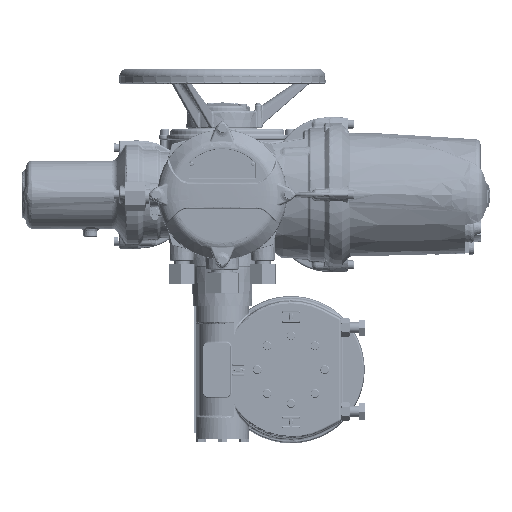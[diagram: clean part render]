
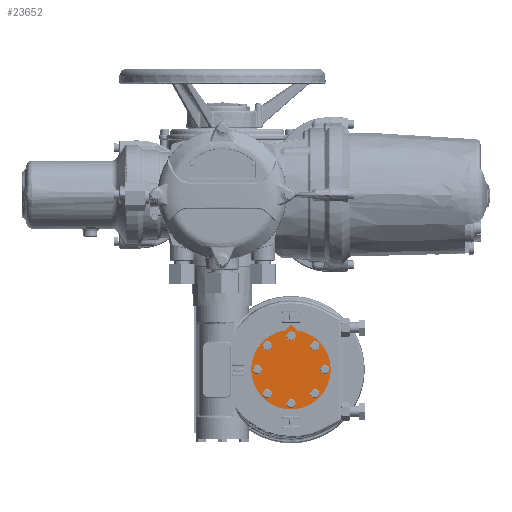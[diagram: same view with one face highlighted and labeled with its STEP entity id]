
A CAD part, front view. The second image highlights one B-rep face of the part: STEP entity #23652.
In plain terms, the highlighted planar face has unit normal (0, -1, 0).
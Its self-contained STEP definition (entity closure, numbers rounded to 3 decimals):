
#23652 = ADVANCED_FACE( '', ( #49258, #49259, #49260, #49261, #49262, #49263, #49264, #49265, #49266 ), #49267, .F. );
#49258 = FACE_BOUND( '', #304279, .T. );
#49259 = FACE_BOUND( '', #304280, .T. );
#49260 = FACE_BOUND( '', #304281, .T. );
#49261 = FACE_BOUND( '', #304282, .T. );
#49262 = FACE_BOUND( '', #304283, .T. );
#49263 = FACE_BOUND( '', #304284, .T. );
#49264 = FACE_BOUND( '', #304285, .T. );
#49265 = FACE_BOUND( '', #304286, .T. );
#49266 = FACE_OUTER_BOUND( '', #304287, .T. );
#49267 = PLANE( '', #304288 );
#304279 = EDGE_LOOP( '', ( #410329 ) );
#304280 = EDGE_LOOP( '', ( #410330 ) );
#304281 = EDGE_LOOP( '', ( #410331 ) );
#304282 = EDGE_LOOP( '', ( #410332 ) );
#304283 = EDGE_LOOP( '', ( #410333 ) );
#304284 = EDGE_LOOP( '', ( #410334 ) );
#304285 = EDGE_LOOP( '', ( #410335 ) );
#304286 = EDGE_LOOP( '', ( #410336 ) );
#304287 = EDGE_LOOP( '', ( #410337, #410338, #410339 ) );
#304288 = AXIS2_PLACEMENT_3D( '', #410340, #410341, #410342 );
#410329 = ORIENTED_EDGE( '', *, *, #449777, .T. );
#410330 = ORIENTED_EDGE( '', *, *, #449778, .T. );
#410331 = ORIENTED_EDGE( '', *, *, #439304, .T. );
#410332 = ORIENTED_EDGE( '', *, *, #430663, .T. );
#410333 = ORIENTED_EDGE( '', *, *, #422427, .T. );
#410334 = ORIENTED_EDGE( '', *, *, #449779, .T. );
#410335 = ORIENTED_EDGE( '', *, *, #449780, .T. );
#410336 = ORIENTED_EDGE( '', *, *, #449781, .T. );
#410337 = ORIENTED_EDGE( '', *, *, #447235, .F. );
#410338 = ORIENTED_EDGE( '', *, *, #436791, .F. );
#410339 = ORIENTED_EDGE( '', *, *, #444899, .F. );
#410340 = CARTESIAN_POINT( '', ( 101.625, -43.175, -259. ) );
#410341 = DIRECTION( '', ( 0., 1., 0. ) );
#410342 = DIRECTION( '', ( 0., 0., 1. ) );
#422427 = EDGE_CURVE( '', #453109, #453109, #453110, .T. );
#430663 = EDGE_CURVE( '', #467167, #467167, #467168, .T. );
#436791 = EDGE_CURVE( '', #476512, #476513, #476514, .T. );
#439304 = EDGE_CURVE( '', #480055, #480055, #480056, .T. );
#444899 = EDGE_CURVE( '', #487336, #476512, #487337, .T. );
#447235 = EDGE_CURVE( '', #476513, #487336, #490093, .T. );
#449777 = EDGE_CURVE( '', #492888, #492888, #492889, .T. );
#449778 = EDGE_CURVE( '', #492890, #492890, #492891, .T. );
#449779 = EDGE_CURVE( '', #492892, #492892, #492893, .T. );
#449780 = EDGE_CURVE( '', #492894, #492894, #492895, .T. );
#449781 = EDGE_CURVE( '', #492896, #492896, #492897, .T. );
#453109 = VERTEX_POINT( '', #500699 );
#453110 = CIRCLE( '', #500700, 6.75 );
#467167 = VERTEX_POINT( '', #556106 );
#467168 = CIRCLE( '', #556107, 6.75 );
#476512 = VERTEX_POINT( '', #596957 );
#476513 = VERTEX_POINT( '', #596958 );
#476514 = LINE( '', #596959, #596960 );
#480055 = VERTEX_POINT( '', #610894 );
#480056 = CIRCLE( '', #610895, 6.75 );
#487336 = VERTEX_POINT( '', #642474 );
#487337 = LINE( '', #642475, #642476 );
#490093 = CIRCLE( '', #654607, 58.75 );
#492888 = VERTEX_POINT( '', #667147 );
#492889 = CIRCLE( '', #667148, 6.75 );
#492890 = VERTEX_POINT( '', #667149 );
#492891 = CIRCLE( '', #667150, 6.75 );
#492892 = VERTEX_POINT( '', #667151 );
#492893 = CIRCLE( '', #667152, 6.75 );
#492894 = VERTEX_POINT( '', #667153 );
#492895 = CIRCLE( '', #667154, 6.75 );
#492896 = VERTEX_POINT( '', #667155 );
#492897 = CIRCLE( '', #667156, 6.75 );
#500699 = CARTESIAN_POINT( '', ( 132.207, -43.175, -218.872 ) );
#500700 = AXIS2_PLACEMENT_3D( '', #674286, #674287, #674288 );
#556106 = CARTESIAN_POINT( '', ( 94.875, -43.175, -209. ) );
#556107 = AXIS2_PLACEMENT_3D( '', #682984, #682985, #682986 );
#596957 = CARTESIAN_POINT( '', ( 101.625, -43.175, -192.75 ) );
#596958 = CARTESIAN_POINT( '', ( 109.68, -43.175, -200.805 ) );
#596959 = CARTESIAN_POINT( '', ( 101.625, -43.175, -192.75 ) );
#596960 = VECTOR( '', #688914, 1000. );
#610894 = CARTESIAN_POINT( '', ( 151.625, -43.175, -252.25 ) );
#610895 = AXIS2_PLACEMENT_3D( '', #691265, #691266, #691267 );
#642474 = CARTESIAN_POINT( '', ( 93.57, -43.175, -200.805 ) );
#642475 = CARTESIAN_POINT( '', ( 93.57, -43.175, -200.805 ) );
#642476 = VECTOR( '', #696162, 1000. );
#654607 = AXIS2_PLACEMENT_3D( '', #697936, #697937, #697938 );
#667147 = CARTESIAN_POINT( '', ( 61.497, -43.175, -228.418 ) );
#667148 = AXIS2_PLACEMENT_3D( '', #699566, #699567, #699568 );
#667149 = CARTESIAN_POINT( '', ( 108.375, -43.175, -309. ) );
#667150 = AXIS2_PLACEMENT_3D( '', #699569, #699570, #699571 );
#667151 = CARTESIAN_POINT( '', ( 141.753, -43.175, -289.582 ) );
#667152 = AXIS2_PLACEMENT_3D( '', #699572, #699573, #699574 );
#667153 = CARTESIAN_POINT( '', ( 71.043, -43.175, -299.128 ) );
#667154 = AXIS2_PLACEMENT_3D( '', #699575, #699576, #699577 );
#667155 = CARTESIAN_POINT( '', ( 51.625, -43.175, -265.75 ) );
#667156 = AXIS2_PLACEMENT_3D( '', #699578, #699579, #699580 );
#674286 = CARTESIAN_POINT( '', ( 136.98, -43.175, -223.645 ) );
#674287 = DIRECTION( '', ( 0., 1., 0. ) );
#674288 = DIRECTION( '', ( -0.707, 0., 0.707 ) );
#682984 = CARTESIAN_POINT( '', ( 101.625, -43.175, -209. ) );
#682985 = DIRECTION( '', ( 0., 1., 0. ) );
#682986 = DIRECTION( '', ( -1., 0., 0. ) );
#688914 = DIRECTION( '', ( 0.707, 0., -0.707 ) );
#691265 = CARTESIAN_POINT( '', ( 151.625, -43.175, -259. ) );
#691266 = DIRECTION( '', ( 0., 1., 0. ) );
#691267 = DIRECTION( '', ( 0., 0., 1. ) );
#696162 = DIRECTION( '', ( 0.707, 0., 0.707 ) );
#697936 = CARTESIAN_POINT( '', ( 101.625, -43.175, -259. ) );
#697937 = DIRECTION( '', ( 0., 1., 0. ) );
#697938 = DIRECTION( '', ( 0., 0., 1. ) );
#699566 = CARTESIAN_POINT( '', ( 66.27, -43.175, -223.645 ) );
#699567 = DIRECTION( '', ( 0., 1., 0. ) );
#699568 = DIRECTION( '', ( -0.707, 0., -0.707 ) );
#699569 = CARTESIAN_POINT( '', ( 101.625, -43.175, -309. ) );
#699570 = DIRECTION( '', ( 0., 1., 0. ) );
#699571 = DIRECTION( '', ( 1., 0., 0. ) );
#699572 = CARTESIAN_POINT( '', ( 136.98, -43.175, -294.355 ) );
#699573 = DIRECTION( '', ( 0., 1., 0. ) );
#699574 = DIRECTION( '', ( 0.707, 0., 0.707 ) );
#699575 = CARTESIAN_POINT( '', ( 66.27, -43.175, -294.355 ) );
#699576 = DIRECTION( '', ( 0., 1., 0. ) );
#699577 = DIRECTION( '', ( 0.707, 0., -0.707 ) );
#699578 = CARTESIAN_POINT( '', ( 51.625, -43.175, -259. ) );
#699579 = DIRECTION( '', ( 0., 1., 0. ) );
#699580 = DIRECTION( '', ( 0., 0., -1. ) );
